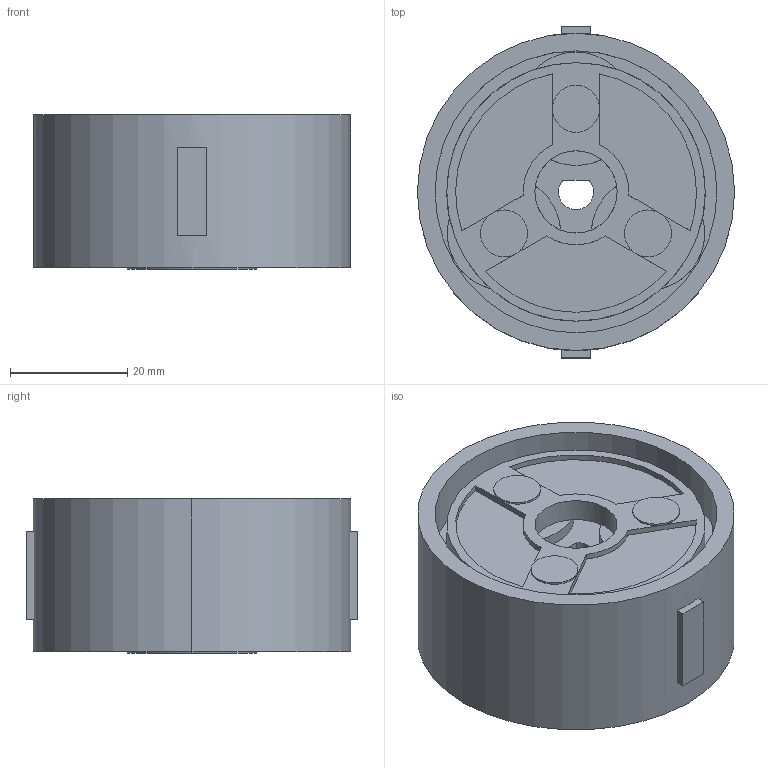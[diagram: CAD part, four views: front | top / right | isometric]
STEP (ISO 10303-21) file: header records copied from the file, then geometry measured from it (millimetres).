
FILE_DESCRIPTION (( 'STEP AP203' ), '1' );
FILE_NAME ('LGU54-5PAD.step', '2021-07-23T02:24:24', ( '' ), ( '' ), 'SwSTEP 2.0', 'SolidWorks 2021', '' );
FILE_SCHEMA (( 'CONFIG_CONTROL_DESIGN' ));
Length unit declared in the file: millimetre
Products named in the file (1): LGU54-5PAD
Bounding box: 54 x 56.5 x 26.25 mm (x, y, z)
Volume: 43939.5 mm3; surface area: 18020.8 mm2
Topology: 1 solids, 1 shells, 216 faces, 591 edges, 386 vertices
Faces by surface type: cylinder 158, plane 56, cone 2
Entity records: 7128 total; most frequent: DIRECTION 1373, CARTESIAN_POINT 1212, ORIENTED_EDGE 1182, EDGE_CURVE 591, AXIS2_PLACEMENT_3D 571, VERTEX_POINT 386, CIRCLE 354, EDGE_LOOP 239
